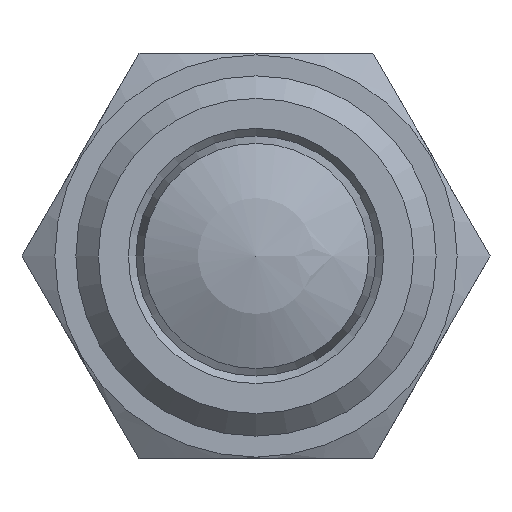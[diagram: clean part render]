
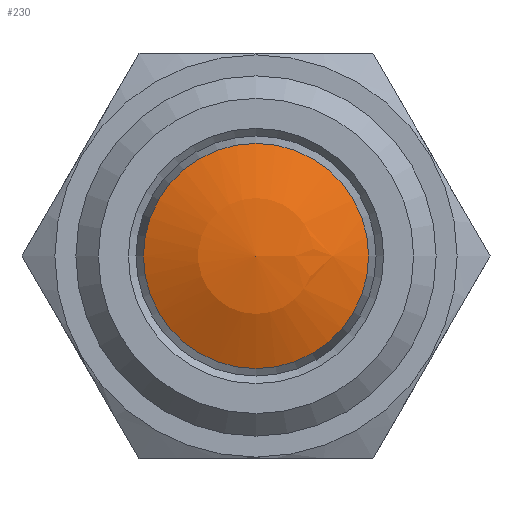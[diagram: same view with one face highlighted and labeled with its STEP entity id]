
A CAD part, front view. The second image highlights one B-rep face of the part: STEP entity #230.
In plain terms, the highlighted spherical face has radius 16 mm.
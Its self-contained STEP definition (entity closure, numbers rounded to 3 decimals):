
#230 = ADVANCED_FACE( '', ( #306, #307 ), #308, .T. );
#306 = FACE_BOUND( '', #399, .T. );
#307 = FACE_OUTER_BOUND( '', #400, .T. );
#308 = SPHERICAL_SURFACE( '', #401, 16. );
#399 = VERTEX_LOOP( '', #567 );
#400 = EDGE_LOOP( '', ( #568 ) );
#401 = AXIS2_PLACEMENT_3D( '', #569, #570, #571 );
#567 = VERTEX_POINT( '', #647 );
#568 = ORIENTED_EDGE( '', *, *, #648, .T. );
#569 = CARTESIAN_POINT( '', ( 0., 16., 0. ) );
#570 = DIRECTION( '', ( 0., -1., 0. ) );
#571 = DIRECTION( '', ( 1., 0., 0. ) );
#647 = CARTESIAN_POINT( '', ( 0., 0., 0. ) );
#648 = EDGE_CURVE( '', #720, #720, #721, .T. );
#720 = VERTEX_POINT( '', #938 );
#721 = CIRCLE( '', #939, 7.501 );
#938 = CARTESIAN_POINT( '', ( 0., 1.867, -7.501 ) );
#939 = AXIS2_PLACEMENT_3D( '', #1011, #1012, #1013 );
#1011 = CARTESIAN_POINT( '', ( 0., 1.867, 0. ) );
#1012 = DIRECTION( '', ( 0., -1., 0. ) );
#1013 = DIRECTION( '', ( 0., 0., -1. ) );
